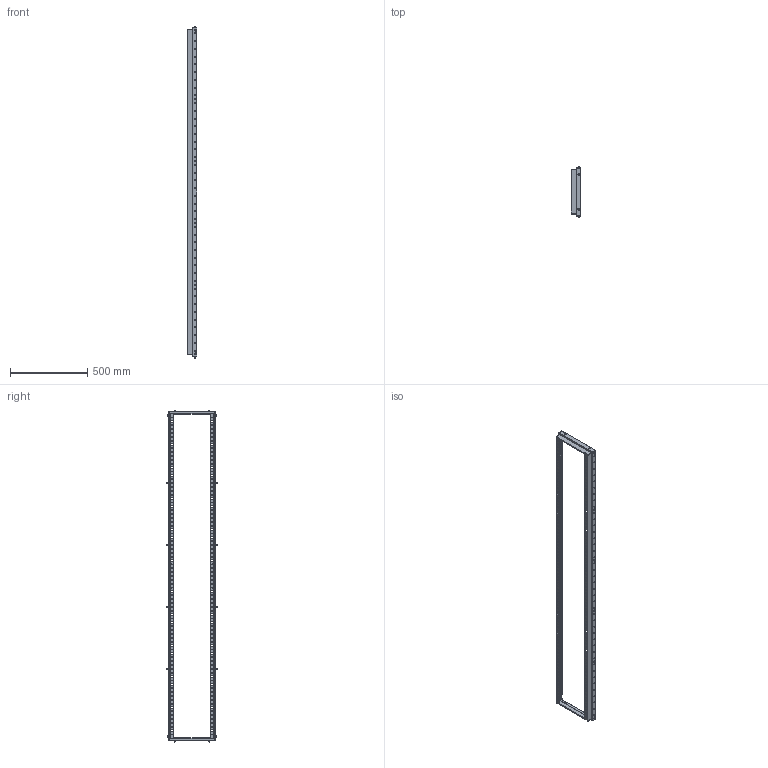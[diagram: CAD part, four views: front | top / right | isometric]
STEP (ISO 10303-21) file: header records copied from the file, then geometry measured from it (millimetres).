
FILE_DESCRIPTION (( 'STEP AP214' ), '1' );
FILE_NAME ('FO-00-UVF-220-040 Ðàìà äëÿ ïëàñòðîíîâ 2200õ400.STEP', '2025-09-25T09:14:29', ( '' ), ( '' ), 'SwSTEP 2.0', 'SolidWorks 2023', '' );
FILE_SCHEMA (( 'AUTOMOTIVE_DESIGN' ));
Length unit declared in the file: millimetre
Products named in the file (1): FO-00-UVF-220-040 Рама для пластронов 2200х400
Bounding box: 60.8 x 325 x 2146 mm (x, y, z)
Volume: 769541.3 mm3; surface area: 910519.4 mm2
Topology: 1 solids, 1 shells, 1854 faces, 4934 edges, 3266 vertices
Faces by surface type: plane 1050, cylinder 748, sphere 24, cone 24, torus 8
Entity records: 59105 total; most frequent: CARTESIAN_POINT 10859, ORIENTED_EDGE 9868, DIRECTION 9820, EDGE_CURVE 4934, VECTOR 3350, LINE 3350, VERTEX_POINT 3266, AXIS2_PLACEMENT_3D 3235
